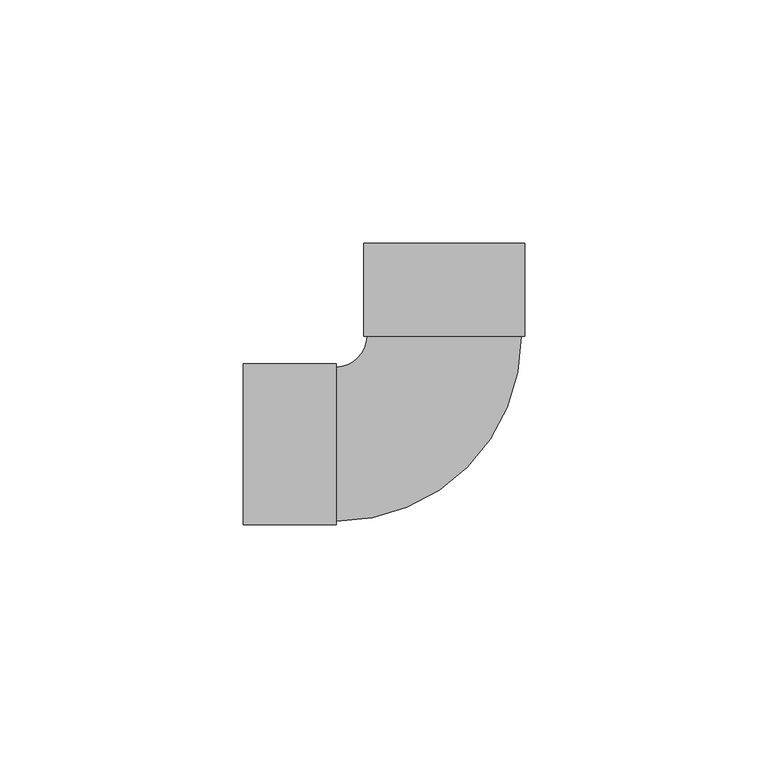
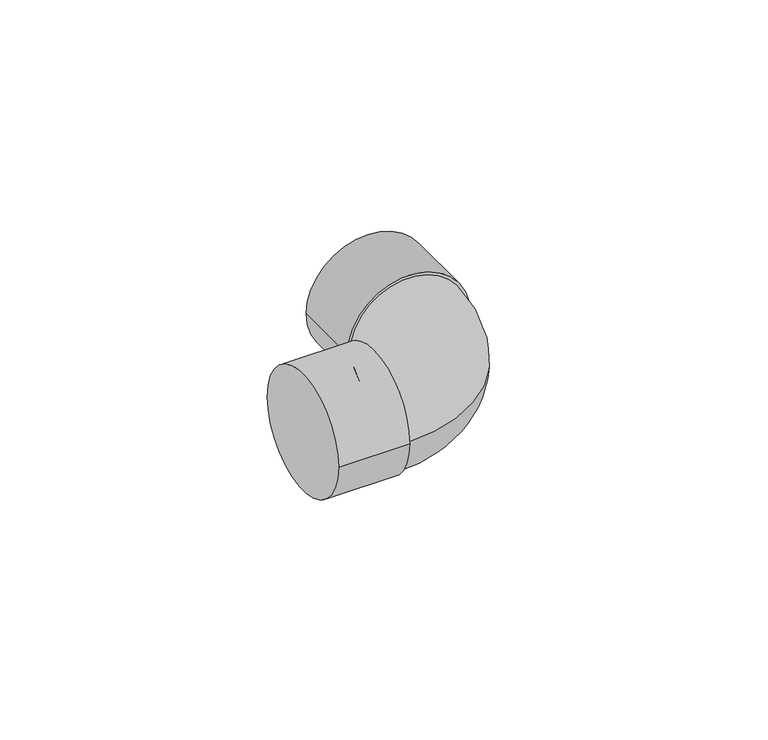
"""IFC4 building model written with IfcOpenShell, lengths in millimetres: pipe fitting geometry, Cotovelo - Soldado - CU : Padrão."""

import ifcopenshell
import ifcopenshell.guid

model = None  # the IFC model being written
_history = None  # IfcOwnerHistory: only IFC2X3 demands one
_inside = {}  # id of a spatial element -> (the spatial element, [elements in it])
_under = {}  # id of a project, library or spatial element -> (it, [spatial elements below it])
_declared = {}  # id of a project -> (the project, [libraries it declares])
_typed = {}  # id of a type object -> (the type object, [elements of that type])
_made_of = {}  # id of a material, layer set ... -> (it, [elements and type objects made of it])


def new_model(schema):
    """Start an empty IFC model of exactly this schema.

    Asked for "IFC4X3", IfcOpenShell would pick the latest addendum, in which some entities
    have other attributes; the version numbers below select the first issue.
    IFC2X3 requires an IfcOwnerHistory on every rooted entity: one is made here for all.
    """
    global model, _history
    if schema == "IFC4X3":
        model = ifcopenshell.file(schema_version=(4, 3, 0, 0))
    else:
        model = ifcopenshell.file(schema=schema)
    _inside.clear()
    _under.clear()
    _declared.clear()
    _typed.clear()
    _made_of.clear()
    _history = None
    if model.schema == "IFC2X3":
        org = make("IfcOrganization", Name="unknown")
        user = make(
            "IfcPersonAndOrganization",
            ThePerson=make("IfcPerson", FamilyName="unknown"),
            TheOrganization=org,
        )
        app = make(
            "IfcApplication",
            ApplicationDeveloper=org,
            Version="unknown",
            ApplicationFullName="unknown",
            ApplicationIdentifier="unknown",
        )
        _history = make(
            "IfcOwnerHistory",
            OwningUser=user,
            OwningApplication=app,
            ChangeAction="ADDED",
            CreationDate=0,
        )
    return model


def make(cls, **values):
    """One entity of the class cls with the attributes given. An attribute that is None is left unset."""
    return model.create_entity(
        cls, **{name: value for name, value in values.items() if value is not None}
    )


def rooted(cls, **values):
    """An entity with a GlobalId (a new one), such as an element, a storey or a relation."""
    return make(cls, GlobalId=ifcopenshell.guid.new(), OwnerHistory=_history, **values)


def si_unit(unit_type, name, prefix=None):
    """IfcSIUnit, for example si_unit("LENGTHUNIT", "METRE", prefix="MILLI")."""
    return make("IfcSIUnit", UnitType=unit_type, Prefix=prefix, Name=name)


def assignment(units):
    """IfcUnitAssignment: the units of a project."""
    return None if units is None else make("IfcUnitAssignment", Units=units)


def point(xyz):
    """IfcCartesianPoint."""
    return None if xyz is None else make("IfcCartesianPoint", Coordinates=xyz)


def direction(xyz):
    """IfcDirection."""
    return None if xyz is None else make("IfcDirection", DirectionRatios=xyz)


def frame(location, z_axis=None, x_axis=None):
    """IfcAxis2Placement3D, a coordinate frame: its origin and axes. An axis left out is left unset."""
    return make(
        "IfcAxis2Placement3D",
        Location=point(location),
        Axis=direction(z_axis),
        RefDirection=direction(x_axis),
    )


def origin():
    """The frame at (0, 0, 0) with its axes left unset."""
    return frame((0.0, 0.0, 0.0))


def place(relative_to, where):
    """IfcLocalPlacement: puts the frame where relative to a parent placement (None: the world)."""
    return make(
        "IfcLocalPlacement", PlacementRelTo=relative_to, RelativePlacement=where
    )


def context(
    kind, dimensions, precision=None, world=None, true_north=None, identifier=None
):
    """IfcGeometricRepresentationContext, for example the 3D "Model" context."""
    return make(
        "IfcGeometricRepresentationContext",
        ContextIdentifier=identifier,
        ContextType=kind,
        CoordinateSpaceDimension=dimensions,
        Precision=precision,
        WorldCoordinateSystem=world,
        TrueNorth=true_north,
    )


def project(units=None, contexts=None):
    """IfcProject with its units and contexts."""
    return rooted(
        "IfcProject",
        Name="project",
        RepresentationContexts=contexts,
        UnitsInContext=assignment(units),
    )


def spatial(cls, under=None, at=None, **own):
    """A site, building, storey or space (cls), placed at a placement, below another one or the project."""
    s = rooted(cls, ObjectPlacement=at, **own)
    if under is not None:
        _under.setdefault(under.id(), (under, []))[1].append(s)
    return s


def circle_curve(where, radius):
    """IfcCircle in the frame where."""
    return make("IfcCircle", Position=where, Radius=radius)


def ellipse_curve(where, semi_axis1, semi_axis2):
    """IfcEllipse in the frame where."""
    return make(
        "IfcEllipse", Position=where, SemiAxis1=semi_axis1, SemiAxis2=semi_axis2
    )


def trimmed(basis, trim1, trim2, sense, master):
    """IfcTrimmedCurve: the piece of a basis curve between two trims."""
    return make(
        "IfcTrimmedCurve",
        BasisCurve=basis,
        Trim1=trim1,
        Trim2=trim2,
        SenseAgreement=sense,
        MasterRepresentation=master,
    )


def shape(context_of_items, identifier, shape_type, items):
    """IfcShapeRepresentation: the items that make up one representation, for example the "Body"."""
    return make(
        "IfcShapeRepresentation",
        ContextOfItems=context_of_items,
        RepresentationIdentifier=identifier,
        RepresentationType=shape_type,
        Items=items,
    )


def source(mapping_origin, context_of_items, identifier, shape_type, items):
    """IfcRepresentationMap: a shape defined once, which mapped items show again and again."""
    return make(
        "IfcRepresentationMap",
        MappingOrigin=mapping_origin,
        MappedRepresentation=shape(context_of_items, identifier, shape_type, items),
    )


def transform(
    local_origin,
    x_axis=None,
    y_axis=None,
    z_axis=None,
    scale=None,
    scale2=None,
    scale3=None,
    uniform=True,
):
    """IfcCartesianTransformationOperator3D, or its non-uniform kind. x_axis, y_axis, z_axis: its Axis1, 2, 3."""
    if uniform:
        return make(
            "IfcCartesianTransformationOperator3D",
            Axis1=direction(x_axis),
            Axis2=direction(y_axis),
            LocalOrigin=point(local_origin),
            Scale=scale,
            Axis3=direction(z_axis),
        )
    return make(
        "IfcCartesianTransformationOperator3DnonUniform",
        Axis1=direction(x_axis),
        Axis2=direction(y_axis),
        LocalOrigin=point(local_origin),
        Scale=scale,
        Axis3=direction(z_axis),
        Scale2=scale2,
        Scale3=scale3,
    )


def mapped(mapping_source, mapping_target):
    """IfcMappedItem: shows the shape of a source again, moved by a transform."""
    return make(
        "IfcMappedItem", MappingSource=mapping_source, MappingTarget=mapping_target
    )


def made_of(thing, what):
    """Note that an element or type object is made of a material, layer set ...; save() writes the relation."""
    if what is not None:
        _made_of.setdefault(what.id(), (what, []))[1].append(thing)
    return thing


def element(
    cls,
    number,
    at=None,
    inside=None,
    cuts=None,
    type_object=None,
    material=None,
    context=None,
    identifier="Body",
    shape_type=None,
    held_by="IfcProductDefinitionShape",
    body=None,
    shapes=None,
    **own,
):
    """One element of the class cls, such as IfcWall. Its Tag is "e" and its number.

    at: its placement. inside: the storey or other place that contains it. cuts: it is an
    opening in that element (IfcRelVoidsElement). A single representation is given by context,
    identifier, shape_type and body (its items); several are given by shapes. held_by: the class
    of the entity that holds the representations. save() writes the other relations.
    """
    e = rooted(cls, Tag="e%d" % number, ObjectPlacement=at, **own)
    if body is not None:
        shapes = [shape(context, identifier, shape_type, body)]
    if shapes is not None:
        e.Representation = make(held_by, Representations=shapes)
    if inside is not None:
        _inside.setdefault(inside.id(), (inside, []))[1].append(e)
    if cuts is not None:
        rooted(
            "IfcRelVoidsElement", RelatingBuildingElement=cuts, RelatedOpeningElement=e
        )
    if type_object is not None:
        _typed.setdefault(type_object.id(), (type_object, []))[1].append(e)
    return made_of(e, material)


def aggregate(whole, parts):
    """IfcRelAggregates: a whole, such as a stair, and the parts it consists of."""
    return rooted("IfcRelAggregates", RelatingObject=whole, RelatedObjects=parts)


def save(model, path):
    """Write the relations noted so far, then the file.

    IfcRelAggregates (storeys below a building ...), IfcRelContainedInSpatialStructure (elements
    in a storey), IfcRelDefinesByType, IfcRelAssociatesMaterial and IfcRelDeclares: one each for
    every whole, place, type object, material and project.
    """
    for whole, parts in _under.values():
        aggregate(whole, parts)
    for where, things in _inside.values():
        rooted(
            "IfcRelContainedInSpatialStructure",
            RelatedElements=things,
            RelatingStructure=where,
        )
    for kind, things in _typed.values():
        rooted("IfcRelDefinesByType", RelatedObjects=things, RelatingType=kind)
    for what, things in _made_of.values():
        rooted("IfcRelAssociatesMaterial", RelatedObjects=things, RelatingMaterial=what)
    for by, libraries in _declared.values():
        rooted("IfcRelDeclares", RelatingContext=by, RelatedDefinitions=libraries)
    model.write(path)


def plane_surface(at):
    """IfcPlane: the flat surface through the origin of the frame at, square to its z axis."""
    return make("IfcPlane", Position=at)


def cylinder_surface(at, radius):
    """IfcCylindricalSurface: all points at the distance radius from the z axis of the frame at."""
    return make("IfcCylindricalSurface", Position=at, Radius=radius)


def revolved_surface(curve, axis_point, axis_direction):
    """IfcSurfaceOfRevolution: the curve turned about the line through axis_point along axis_direction."""
    return make(
        "IfcSurfaceOfRevolution",
        SweptCurve=make("IfcArbitraryOpenProfileDef", ProfileType="CURVE", Curve=curve),
        AxisPosition=make("IfcAxis1Placement", Location=point(axis_point), Axis=direction(axis_direction)),
    )


def advanced_brep(points, edges, surfaces, faces):
    """IfcAdvancedBrep: a solid bounded by faces that lie on surfaces and meet in shared edges.

    An edge is (start, end): straight between two places in points (the first is 0);
    or (start, end, curve); or (start, end, curve, False) where it runs against its curve.
    A face is (place in surfaces, loops), or (place, loops, False) where it looks against
    its surface's normal. A loop lists edges by number (the first is 1), with a minus sign
    where the edge is run from its end to its start. The first loop is the outer one.
    """
    corners = [point(p) for p in points]
    vertices = [make("IfcVertexPoint", VertexGeometry=c) for c in corners]
    made = []
    for start, end, *more in edges:
        made.append(
            make(
                "IfcEdgeCurve",
                EdgeStart=vertices[start],
                EdgeEnd=vertices[end],
                EdgeGeometry=more[0] if more else make("IfcPolyline", Points=[corners[start], corners[end]]),
                SameSense=more[1] if len(more) > 1 else True,
            )
        )
    hull = []
    for where, loops, *sense in faces:
        bounds = []
        for j, loop in enumerate(loops):
            ring = [make("IfcOrientedEdge", EdgeElement=made[abs(k) - 1], Orientation=k > 0) for k in loop]
            bounds.append(
                make(
                    "IfcFaceOuterBound" if j == 0 else "IfcFaceBound",
                    Bound=make("IfcEdgeLoop", EdgeList=ring),
                    Orientation=True,
                )
            )
        hull.append(make("IfcAdvancedFace", Bounds=bounds, FaceSurface=surfaces[where], SameSense=sense[0] if sense else True))
    return make("IfcAdvancedBrep", Outer=make("IfcClosedShell", CfsFaces=hull))


def pipe_fitting_0ad7e8bf(model_context):
    return source(origin(), model_context, "Body", "AdvancedBrep", [
        advanced_brep(
        [(-15.875, 22.2425, 0.0), (-22.2425, 15.875, 0.0), (-22.2425, -15.875, 0.0), (15.875, 22.2425, 0.0), (-41.365, -16.5925, 0.0), (-41.365, 16.5925, 0.0), (-22.2425, -16.5925, 0.0), (-22.2425, 16.5925, 0.0), (-16.5925, 41.365, 0.0), (16.5925, 41.365, 0.0), (-16.5925, 22.2425, 0.0), (16.5925, 22.2425, 0.0)],
        [
            (0, 1, circle_curve(frame((-22.2425, 22.2425, 0.0), z_axis=(0.0, 0.0, -1.0), x_axis=(0.0, -1.0, 0.0)), 6.3675)),
            (1, 2, circle_curve(frame((-22.2425, 0.0, 0.0), z_axis=(1.0, 0.0, 0.0), x_axis=(0.0, 1.0, 0.0)), 15.875)),
            (2, 3, circle_curve(frame((-22.2425, 22.2425, 0.0), z_axis=(0.0, 0.0, 1.0), x_axis=(0.0, -1.0, 0.0)), 38.1175)),
            (3, 0, circle_curve(frame((0.0, 22.2425, 0.0), z_axis=(0.0, -1.0, 0.0), x_axis=(-1.0, 0.0, 0.0)), 15.875)),
            (0, 3, circle_curve(frame((0.0, 22.2425, 0.0), z_axis=(0.0, -1.0, 0.0), x_axis=(-1.0, 0.0, 0.0)), 15.875)),
            (2, 1, circle_curve(frame((-22.2425, 0.0, 0.0), z_axis=(1.0, 0.0, 0.0), x_axis=(0.0, 1.0, 0.0)), 15.875)),
            (4, 5, circle_curve(frame((-41.365, 0.0, 0.0), z_axis=(-1.0, 0.0, 0.0), x_axis=(0.0, 1.0, 0.0)), 16.5925)),
            (5, 4, circle_curve(frame((-41.365, 0.0, 0.0), z_axis=(-1.0, 0.0, 0.0), x_axis=(0.0, 1.0, 0.0)), 16.5925)),
            (6, 7, circle_curve(frame((-22.2425, 0.0, 0.0), z_axis=(1.0, 0.0, 0.0), x_axis=(0.0, 1.0, 0.0)), 16.5925)),
            (7, 6, circle_curve(frame((-22.2425, 0.0, 0.0), z_axis=(1.0, 0.0, 0.0), x_axis=(0.0, 1.0, 0.0)), 16.5925)),
            (4, 6),
            (7, 5),
            (8, 9, circle_curve(frame((0.0, 41.365, 0.0), z_axis=(0.0, 1.0, 0.0), x_axis=(1.0, 0.0, 0.0)), 16.5925)),
            (9, 8, circle_curve(frame((0.0, 41.365, 0.0), z_axis=(0.0, 1.0, 0.0), x_axis=(1.0, 0.0, 0.0)), 16.5925)),
            (10, 11, circle_curve(frame((0.0, 22.2425, 0.0), z_axis=(0.0, -1.0, 0.0), x_axis=(1.0, 0.0, 0.0)), 16.5925)),
            (11, 10, circle_curve(frame((0.0, 22.2425, 0.0), z_axis=(0.0, -1.0, 0.0), x_axis=(1.0, 0.0, 0.0)), 16.5925)),
            (8, 10),
            (11, 9),
        ],
        [
            revolved_surface(trimmed(ellipse_curve(frame((-22.2425, 0.0, 0.0), z_axis=(-1.0, 0.0, 0.0), x_axis=(0.0, 1.0, 0.0)), 15.875, 15.875), [point((-22.2425, -15.875, 0.0))], [point((-22.2425, 15.875, 0.0))], True, "CARTESIAN"), (-22.2425, 22.2425, 0.0), (0.0, 0.0, 1.0)),
            revolved_surface(trimmed(ellipse_curve(frame((-22.2425, 0.0, 0.0), z_axis=(-1.0, 0.0, 0.0), x_axis=(0.0, 1.0, 0.0)), 15.875, 15.875), [point((-22.2425, 15.875, 0.0))], [point((-22.2425, -15.875, 0.0))], True, "CARTESIAN"), (-22.2425, 22.2425, 0.0), (0.0, 0.0, 1.0)),
            plane_surface(frame((-41.365, 0.0, 0.0), z_axis=(-1.0, 0.0, 0.0), x_axis=(0.0, 0.0, 1.0))),
            plane_surface(frame((-22.2425, 0.0, 0.0), z_axis=(1.0, 0.0, 0.0), x_axis=(0.0, 0.0, 1.0))),
            cylinder_surface(frame((-41.365, 0.0, 0.0), z_axis=(-1.0, 0.0, 0.0), x_axis=(0.0, 1.0, 0.0)), 16.5925),
            plane_surface(frame((0.0, 41.365, 0.0), z_axis=(0.0, 1.0, 0.0), x_axis=(0.0, 0.0, 1.0))),
            plane_surface(frame((0.0, 22.2425, 0.0), z_axis=(0.0, -1.0, 0.0), x_axis=(0.0, 0.0, 1.0))),
            cylinder_surface(frame((0.0, 41.365, 0.0), z_axis=(0.0, 1.0, 0.0), x_axis=(1.0, 0.0, 0.0)), 16.5925),
        ],
        [
            (0, [[1, 2, 3, 4]]),
            (1, [[-1, 5, -3, 6]]),
            (2, [[7, 8]]),
            (3, [[9, 10], [-2, -6]]),
            (4, [[-7, 11, -10, 12]]),
            (4, [[-8, -12, -9, -11]]),
            (5, [[13, 14]]),
            (6, [[15, 16], [-4, -5]]),
            (7, [[-13, 17, -16, 18]]),
            (7, [[-14, -18, -15, -17]]),
        ],
    ),
    ])


if __name__ == "__main__":
    model = new_model("IFC4")
    model_context = context("Model", 3, world=origin())
    ifc_project = project(units=[si_unit("LENGTHUNIT", "METRE", prefix="MILLI")], contexts=[model_context])
    site = spatial("IfcSite", under=ifc_project)
    building = spatial("IfcBuilding", under=site)
    placement = place(None, origin())
    pipe_fitting_shape = pipe_fitting_0ad7e8bf(model_context)
    element("IfcPipeFitting", 1, ObjectType="Cotovelo - Soldado - CU : Padrão", at=placement, inside=building, context=model_context, shape_type="MappedRepresentation", body=[
        mapped(pipe_fitting_shape, transform((0.0, 0.0, 0.0), x_axis=(1.0, 0.0, 0.0), y_axis=(0.0, 1.0, 0.0), z_axis=(0.0, 0.0, 1.0))),
    ])
    save(model, "model.ifc")
